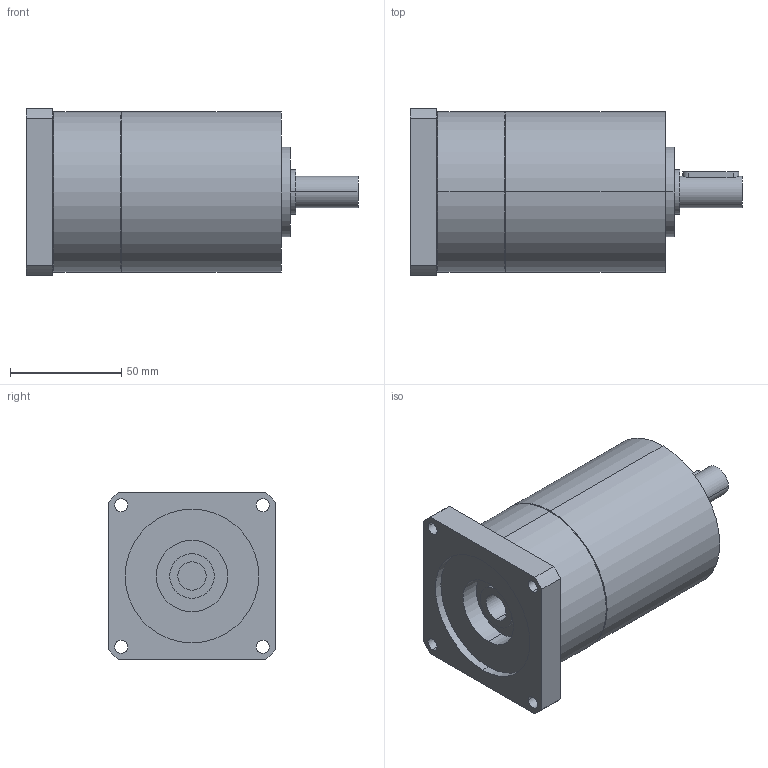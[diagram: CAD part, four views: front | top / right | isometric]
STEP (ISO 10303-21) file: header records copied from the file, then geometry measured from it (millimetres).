
FILE_DESCRIPTION(('CoCreate Modeling STEP Export'),'2;1');
FILE_NAME('GPT75_ig-9-12-16-20-25-28-35-40-50-70-100_14_B14T_12.7_P15.stp','2014-08-27T13:09:08',(''),(''),'CoCreate Modeling STEP processor for AP214 (Solid Model)','CoCreate Modeling 16.00C 25-Feb-2009 (C) Parametric Technology GmbH','');
FILE_SCHEMA(('AUTOMOTIVE_DESIGN { 1 0 10303 214 1 1 1 1 }'));
Length unit declared in the file: millimetre
Products named in the file (2): GPT75_ig-9-12-16-20-25-28-35-40-50-70-100_14_B14T_12.7_P15
Assembly tree (1 placements, depth 2):
  GPT75_ig-9-12-16-20-25-28-35-40-50-70-100_14_B14T_12.7_P15
    GPT75_ig-9-12-16-20-25-28-35-40-50-70-100_14_B14T_12.7_P15
Bounding box: 149 x 75 x 75 mm (x, y, z)
Volume: 472725.4 mm3; surface area: 44664.7 mm2
Topology: 1 solids, 1 shells, 69 faces, 166 edges, 113 vertices
Faces by surface type: cylinder 42, plane 23, cone 4
Entity records: 2161 total; most frequent: CARTESIAN_POINT 664, ORIENTED_EDGE 332, DIRECTION 262, EDGE_CURVE 166, VERTEX_POINT 113, AXIS2_PLACEMENT_3D 99, EDGE_LOOP 91, FACE_OUTER_BOUND 69
